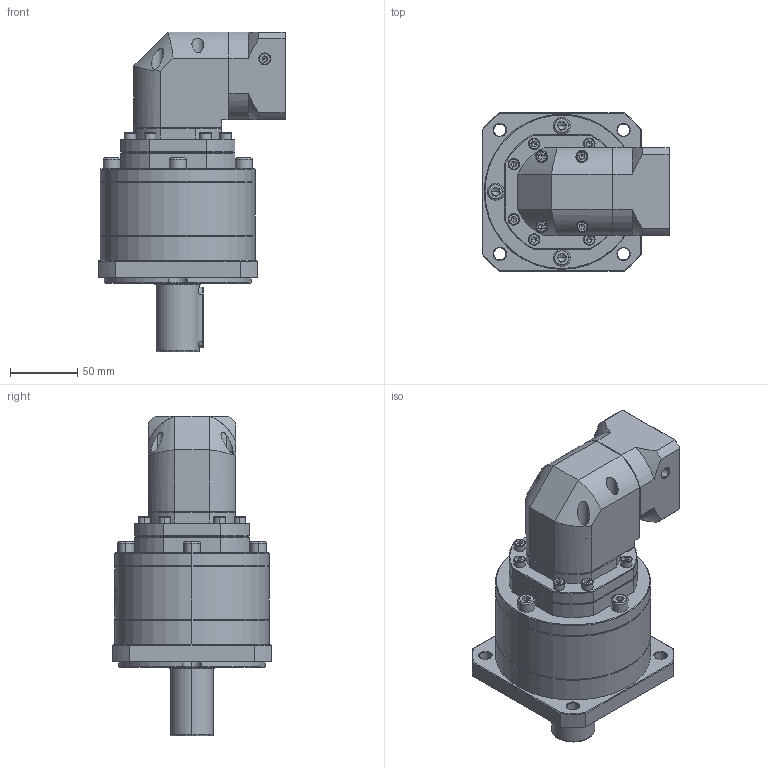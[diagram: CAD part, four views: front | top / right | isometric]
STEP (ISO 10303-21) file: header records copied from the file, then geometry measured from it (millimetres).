
FILE_DESCRIPTION (( 'STEP AP214' ), '1' );
FILE_NAME ('ZFR120A-D32-L3-P2-11-60-75-M5.step', '2023-08-27T09:49:30', ( '' ), ( '' ), 'SwSTEP 2.0', 'SolidWorks 2016', '' );
FILE_SCHEMA (( 'AUTOMOTIVE_DESIGN' ));
Length unit declared in the file: millimetre
Products named in the file (1): ZFR120A-D32-L3-P2-11-60-75-M5
Bounding box: 139.2 x 118 x 237.5 mm (x, y, z)
Volume: 1497974.9 mm3; surface area: 141967.5 mm2
Topology: 6 solids, 6 shells, 2435 faces, 6460 edges, 4141 vertices
Faces by surface type: plane 1172, cylinder 462, bspline 447, cone 346, torus 8
Entity records: 129855 total; most frequent: CARTESIAN_POINT 48104, ORIENTED_EDGE 12812, DIRECTION 9567, EDGE_CURVE 6406, VERTEX_POINT 4141, VECTOR 3419, LINE 3419, AXIS2_PLACEMENT_3D 3074
